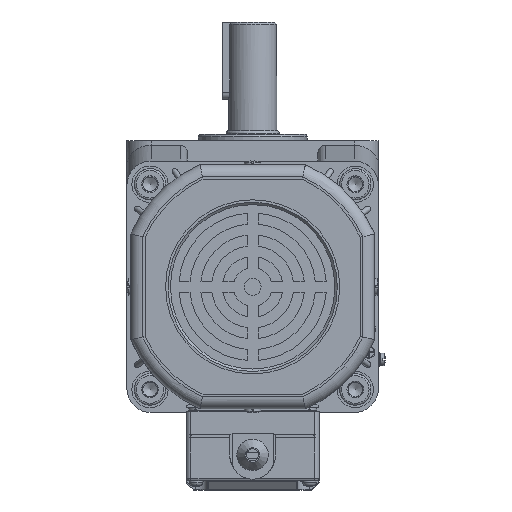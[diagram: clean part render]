
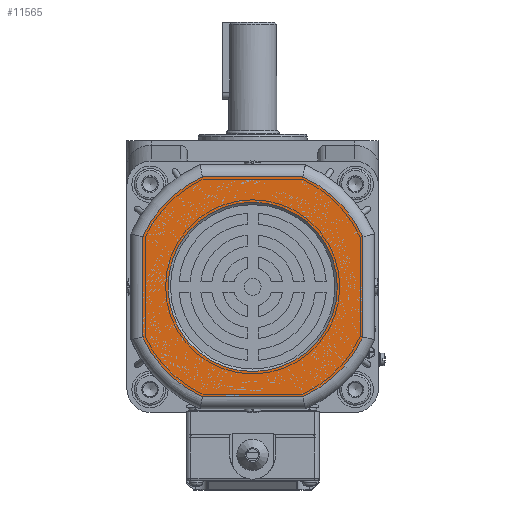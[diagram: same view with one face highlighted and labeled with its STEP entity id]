
A CAD part, left-side view. The second image highlights one B-rep face of the part: STEP entity #11565.
In plain terms, the highlighted planar face has unit normal (-1, 0, 0).
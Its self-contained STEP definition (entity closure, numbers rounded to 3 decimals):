
#2965=PLANE('',#41906);
#6725=LINE('',#61678,#9313);
#6726=LINE('',#61683,#9314);
#6727=LINE('',#61687,#9315);
#6728=LINE('',#61691,#9316);
#9313=VECTOR('',#48873,1.);
#9314=VECTOR('',#48876,1.);
#9315=VECTOR('',#48879,1.);
#9316=VECTOR('',#48882,1.);
#11565=ADVANCED_FACE('',(#13519,#13520),#2965,.F.);
#13519=FACE_BOUND('',#15183,.T.);
#13520=FACE_BOUND('',#15184,.T.);
#15183=EDGE_LOOP('',(#21218,#21219,#21220,#21221,#21222,#21223,#21224,#21225));
#15184=EDGE_LOOP('',(#21226));
#21218=ORIENTED_EDGE('',*,*,#34467,.T.);
#21219=ORIENTED_EDGE('',*,*,#34468,.T.);
#21220=ORIENTED_EDGE('',*,*,#34469,.T.);
#21221=ORIENTED_EDGE('',*,*,#34470,.T.);
#21222=ORIENTED_EDGE('',*,*,#34471,.T.);
#21223=ORIENTED_EDGE('',*,*,#34472,.T.);
#21224=ORIENTED_EDGE('',*,*,#34473,.T.);
#21225=ORIENTED_EDGE('',*,*,#34474,.T.);
#21226=ORIENTED_EDGE('',*,*,#34475,.T.);
#29978=VERTEX_POINT('',#61679);
#29979=VERTEX_POINT('',#61680);
#29980=VERTEX_POINT('',#61682);
#29981=VERTEX_POINT('',#61684);
#29982=VERTEX_POINT('',#61686);
#29983=VERTEX_POINT('',#61688);
#29984=VERTEX_POINT('',#61690);
#29985=VERTEX_POINT('',#61692);
#29986=VERTEX_POINT('',#61695);
#34467=EDGE_CURVE('',#29978,#29979,#6725,.T.);
#34468=EDGE_CURVE('',#29979,#29980,#39065,.T.);
#34469=EDGE_CURVE('',#29980,#29981,#6726,.T.);
#34470=EDGE_CURVE('',#29981,#29982,#39066,.T.);
#34471=EDGE_CURVE('',#29982,#29983,#6727,.T.);
#34472=EDGE_CURVE('',#29983,#29984,#39067,.T.);
#34473=EDGE_CURVE('',#29984,#29985,#6728,.T.);
#34474=EDGE_CURVE('',#29985,#29978,#39068,.T.);
#34475=EDGE_CURVE('',#29986,#29986,#39069,.T.);
#39065=CIRCLE('',#41901,50.);
#39066=CIRCLE('',#41902,50.);
#39067=CIRCLE('',#41903,50.);
#39068=CIRCLE('',#41904,50.);
#39069=CIRCLE('',#41905,35.);
#41901=AXIS2_PLACEMENT_3D('',#61681,#48874,#48875);
#41902=AXIS2_PLACEMENT_3D('',#61685,#48877,#48878);
#41903=AXIS2_PLACEMENT_3D('',#61689,#48880,#48881);
#41904=AXIS2_PLACEMENT_3D('',#61693,#48883,#48884);
#41905=AXIS2_PLACEMENT_3D('',#61694,#48885,#48886);
#41906=AXIS2_PLACEMENT_3D('',#61696,#48887,#48888);
#48873=DIRECTION('',(0.,-1.,0.));
#48874=DIRECTION('',(-1.,0.,0.));
#48875=DIRECTION('',(0.,0.,1.));
#48876=DIRECTION('',(0.,0.,1.));
#48877=DIRECTION('',(-1.,0.,0.));
#48878=DIRECTION('',(0.,0.,1.));
#48879=DIRECTION('',(0.,1.,0.));
#48880=DIRECTION('',(-1.,0.,0.));
#48881=DIRECTION('',(0.,0.,1.));
#48882=DIRECTION('',(0.,0.,-1.));
#48883=DIRECTION('',(-1.,0.,0.));
#48884=DIRECTION('',(0.,0.,1.));
#48885=DIRECTION('',(1.,0.,0.));
#48886=DIRECTION('',(0.,-1.,0.));
#48887=DIRECTION('',(1.,0.,0.));
#48888=DIRECTION('',(0.,0.,1.));
#61678=CARTESIAN_POINT('',(-246.8,-142.46,-103.991));
#61679=CARTESIAN_POINT('',(-246.8,-99.941,-103.991));
#61680=CARTESIAN_POINT('',(-246.8,-141.402,-103.991));
#61681=CARTESIAN_POINT('',(-246.8,-120.671,-58.491));
#61682=CARTESIAN_POINT('',(-246.8,-166.171,-79.221));
#61683=CARTESIAN_POINT('',(-246.8,-166.171,-36.702));
#61684=CARTESIAN_POINT('',(-246.8,-166.171,-37.76));
#61685=CARTESIAN_POINT('',(-246.8,-120.671,-58.491));
#61686=CARTESIAN_POINT('',(-246.8,-141.402,-12.991));
#61687=CARTESIAN_POINT('',(-246.8,-98.882,-12.991));
#61688=CARTESIAN_POINT('',(-246.8,-99.941,-12.991));
#61689=CARTESIAN_POINT('',(-246.8,-120.671,-58.491));
#61690=CARTESIAN_POINT('',(-246.8,-75.171,-37.76));
#61691=CARTESIAN_POINT('',(-246.8,-75.171,-80.28));
#61692=CARTESIAN_POINT('',(-246.8,-75.171,-79.221));
#61693=CARTESIAN_POINT('',(-246.8,-120.671,-58.491));
#61694=CARTESIAN_POINT('',(-246.8,-120.671,-58.491));
#61695=CARTESIAN_POINT('',(-246.8,-155.671,-58.491));
#61696=CARTESIAN_POINT('',(-246.8,-120.671,-58.491));
